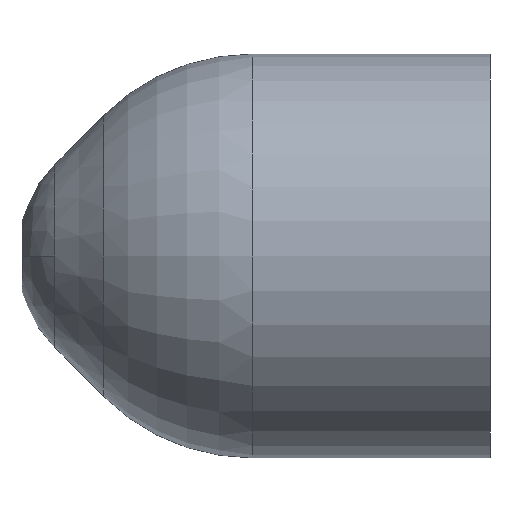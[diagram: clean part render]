
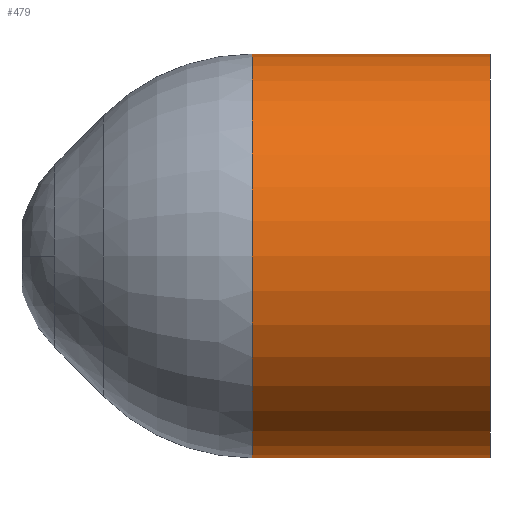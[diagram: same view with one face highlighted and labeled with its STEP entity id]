
A CAD part, front view. The second image highlights one B-rep face of the part: STEP entity #479.
In plain terms, the highlighted cylindrical face has radius 4.66 mm (diameter 9.32 mm), a partial arc.
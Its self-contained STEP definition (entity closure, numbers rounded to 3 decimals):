
#52 = VECTOR ( 'NONE', #507, 1000. ) ;
#54 = CARTESIAN_POINT ( 'NONE',  ( 0., 0., 4.66 ) ) ;
#96 = CARTESIAN_POINT ( 'NONE',  ( -5.492, 0., 4.66 ) ) ;
#97 = EDGE_CURVE ( 'NONE', #439, #373, #649, .T. ) ;
#104 = CARTESIAN_POINT ( 'NONE',  ( 0., 0., 0. ) ) ;
#108 = EDGE_CURVE ( 'NONE', #439, #305, #295, .T. ) ;
#122 = LINE ( 'NONE', #386, #478 ) ;
#146 = FACE_OUTER_BOUND ( 'NONE', #278, .T. ) ;
#169 = DIRECTION ( 'NONE',  ( 1., 0., 0. ) ) ;
#232 = AXIS2_PLACEMENT_3D ( 'NONE', #433, #641, #591 ) ;
#245 = ORIENTED_EDGE ( 'NONE', *, *, #559, .T. ) ;
#263 = DIRECTION ( 'NONE',  ( 1., 0., 0. ) ) ;
#275 = ORIENTED_EDGE ( 'NONE', *, *, #97, .T. ) ;
#278 = EDGE_LOOP ( 'NONE', ( #486, #275, #245, #364 ) ) ;
#295 = LINE ( 'NONE', #565, #52 ) ;
#305 = VERTEX_POINT ( 'NONE', #54 ) ;
#325 = CARTESIAN_POINT ( 'NONE',  ( 0., 0., -4.66 ) ) ;
#353 = AXIS2_PLACEMENT_3D ( 'NONE', #501, #661, #552 ) ;
#364 = ORIENTED_EDGE ( 'NONE', *, *, #562, .F. ) ;
#365 = DIRECTION ( 'NONE',  ( 0., 0., -1. ) ) ;
#373 = VERTEX_POINT ( 'NONE', #631 ) ;
#381 = VERTEX_POINT ( 'NONE', #325 ) ;
#386 = CARTESIAN_POINT ( 'NONE',  ( 0., 0., -4.66 ) ) ;
#431 = AXIS2_PLACEMENT_3D ( 'NONE', #104, #263, #365 ) ;
#433 = CARTESIAN_POINT ( 'NONE',  ( 0., 0., 0. ) ) ;
#439 = VERTEX_POINT ( 'NONE', #96 ) ;
#478 = VECTOR ( 'NONE', #169, 1000. ) ;
#479 = ADVANCED_FACE ( 'NONE', ( #146 ), #582, .T. ) ;
#486 = ORIENTED_EDGE ( 'NONE', *, *, #108, .F. ) ;
#501 = CARTESIAN_POINT ( 'NONE',  ( -5.492, 0., 0. ) ) ;
#507 = DIRECTION ( 'NONE',  ( 1., 0., 0. ) ) ;
#535 = CIRCLE ( 'NONE', #232, 4.66 ) ;
#552 = DIRECTION ( 'NONE',  ( 0., 0., -1. ) ) ;
#559 = EDGE_CURVE ( 'NONE', #373, #381, #122, .T. ) ;
#562 = EDGE_CURVE ( 'NONE', #305, #381, #535, .T. ) ;
#565 = CARTESIAN_POINT ( 'NONE',  ( 0., 0., 4.66 ) ) ;
#582 = CYLINDRICAL_SURFACE ( 'NONE', #431, 4.66 ) ;
#591 = DIRECTION ( 'NONE',  ( 0., 0., -1. ) ) ;
#631 = CARTESIAN_POINT ( 'NONE',  ( -5.492, 0., -4.66 ) ) ;
#641 = DIRECTION ( 'NONE',  ( 1., 0., 0. ) ) ;
#649 = CIRCLE ( 'NONE', #353, 4.66 ) ;
#661 = DIRECTION ( 'NONE',  ( 1., 0., 0. ) ) ;
